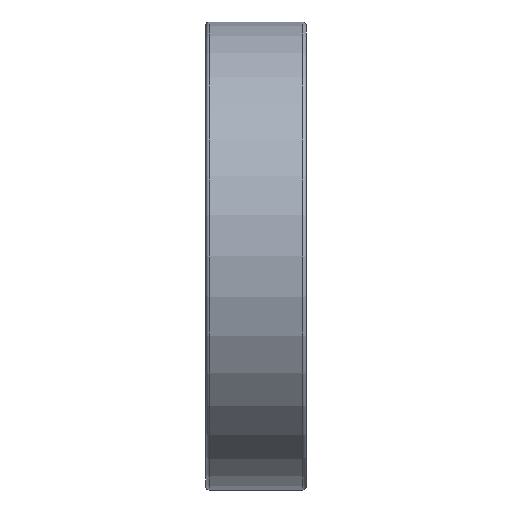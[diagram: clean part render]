
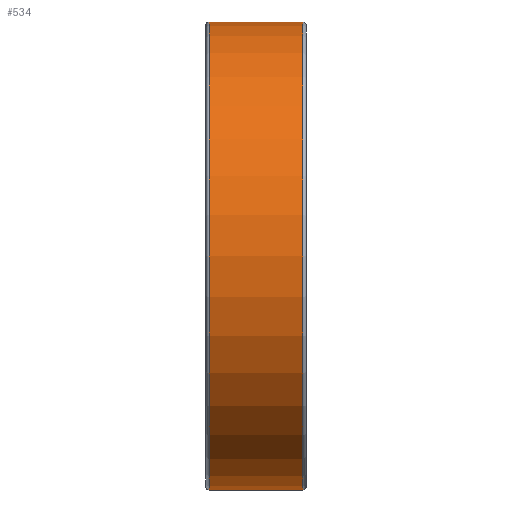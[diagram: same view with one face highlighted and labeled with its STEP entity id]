
A CAD part, front view. The second image highlights one B-rep face of the part: STEP entity #534.
In plain terms, the highlighted cylindrical face has radius 21 mm (diameter 42 mm), a full revolution.
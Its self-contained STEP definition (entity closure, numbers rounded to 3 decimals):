
#164=CYLINDRICAL_SURFACE('',#834,21.);
#260=EDGE_LOOP('',(#368));
#261=EDGE_LOOP('',(#369));
#368=ORIENTED_EDGE('',*,*,#430,.F.);
#369=ORIENTED_EDGE('',*,*,#428,.T.);
#428=EDGE_CURVE('',#763,#763,#448,.T.);
#430=EDGE_CURVE('',#765,#765,#450,.T.);
#448=CIRCLE('',#830,21.);
#450=CIRCLE('',#833,21.);
#534=ADVANCED_FACE('',(#669,#670),#164,.T.);
#669=FACE_BOUND('',#260,.T.);
#670=FACE_BOUND('',#261,.T.);
#763=VERTEX_POINT('',#3082);
#765=VERTEX_POINT('',#3087);
#830=AXIS2_PLACEMENT_3D('',#3081,#955,#956);
#833=AXIS2_PLACEMENT_3D('',#3086,#961,#962);
#834=AXIS2_PLACEMENT_3D('',#3088,#963,#964);
#955=DIRECTION('',(1.,0.,0.));
#956=DIRECTION('',(0.,0.,-1.));
#961=DIRECTION('',(1.,0.,0.));
#962=DIRECTION('',(0.,0.,-1.));
#963=DIRECTION('',(1.,0.,0.));
#964=DIRECTION('',(0.,0.,-1.));
#3081=CARTESIAN_POINT('',(-4.2,0.,0.));
#3082=CARTESIAN_POINT('',(-4.2,0.,-21.));
#3086=CARTESIAN_POINT('',(4.2,0.,0.));
#3087=CARTESIAN_POINT('',(4.2,0.,-21.));
#3088=CARTESIAN_POINT('',(-4.2,0.,0.));
